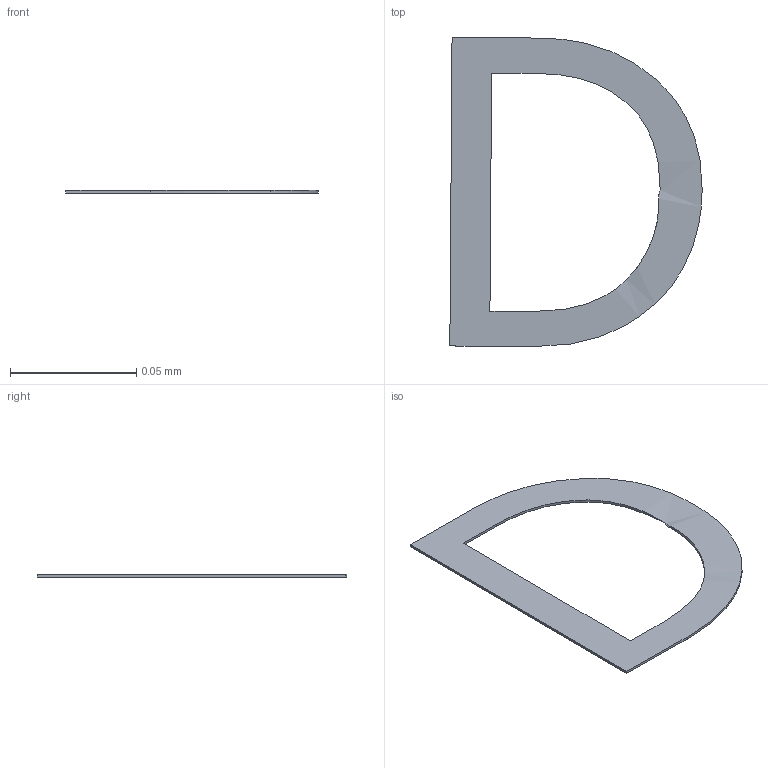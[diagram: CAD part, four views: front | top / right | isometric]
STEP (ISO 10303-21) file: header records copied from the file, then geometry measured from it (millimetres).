
FILE_DESCRIPTION(/* description */ ('STEP AP242 Edition 2','CAx-IF Rec.Pracs.---Representation and Presentation of Product Manufacturing Information (PMI)---4.0---2014-10-13','CAx-IF Rec.Pracs.---3D Tessellated Geometry---0.4---2014-09-14','2;1','CAx-IF Rec.Pracs.---User Defined Attributes---1.5---2016-08-15'),/* implementation_level */ '2;1');
FILE_NAME(/* name */ 'Assembly 1 - SW-SMD_L3.9-W3.0-P4.45~SW-SMD_L3.9-W2.9-H2.0-LS4.8~nxQB_1 (10)',/* time_stamp */ '2026-04-02T09:55:26Z',/* author */ (''),/* organization */ (''),/* preprocessor_version */ 'ST-DEVELOPER v20',/* originating_system */ 'ONSHAPE BY PTC INC, 1.212',/* authorisation */ ' ');
FILE_SCHEMA (('AP242_MANAGED_MODEL_BASED_3D_ENGINEERING_MIM_LF { 1 0 10303 442 3 1 4 }'));
Length unit declared in the file: metre
Products named in the file (1): SW-SMD_L3.9-W3.0-P4.45~SW-SMD_L3.9-W2.9-H2.0-LS4.8~nxQB_1
Bounding box: 0.1 x 0.12 x 0 mm (x, y, z)
Volume: 0 mm3; surface area: 0 mm2
Topology: 1 solids, 1 shells, 16 faces, 44 edges, 28 vertices
Faces by surface type: plane 8, bspline 7, sphere 1
Entity records: 651 total; most frequent: CARTESIAN_POINT 174, ORIENTED_EDGE 80, DIRECTION 48, EDGE_CURVE 40, VERTEX_POINT 26, LINE 24, VECTOR 24, EDGE_LOOP 18
